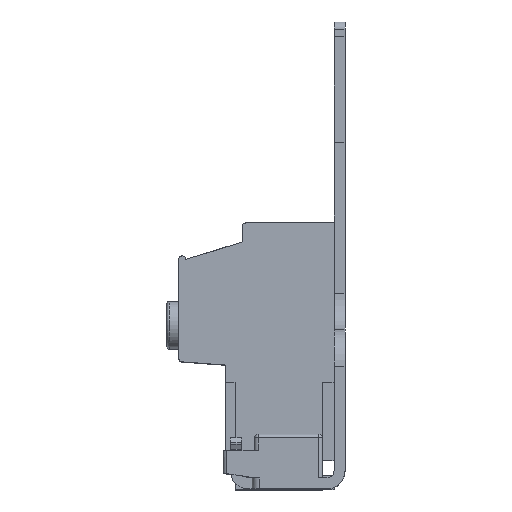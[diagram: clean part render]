
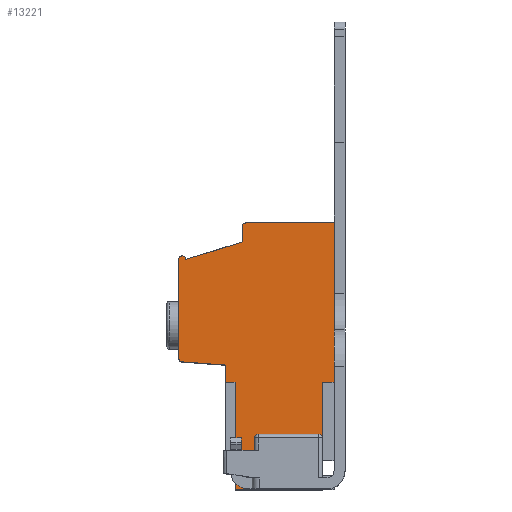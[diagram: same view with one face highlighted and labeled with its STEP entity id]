
A CAD part, top view. The second image highlights one B-rep face of the part: STEP entity #13221.
In plain terms, the highlighted planar face has unit normal (0, 0, 1).
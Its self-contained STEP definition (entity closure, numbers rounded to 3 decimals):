
#1215=DIRECTION('',(0.,1.,0.));
#1216=VECTOR('',#1215,7.15);
#1217=CARTESIAN_POINT('',(22.9,19.45,-14.231));
#1218=LINE('',#1217,#1216);
#1632=DIRECTION('',(-1.,0.,0.));
#1633=VECTOR('',#1632,9.3);
#1634=CARTESIAN_POINT('',(21.3,6.3,-14.231));
#1635=LINE('',#1634,#1633);
#1641=DIRECTION('',(0.,1.,0.));
#1642=VECTOR('',#1641,7.65);
#1643=CARTESIAN_POINT('',(21.3,11.8,-14.231));
#1644=LINE('',#1643,#1642);
#1649=DIRECTION('',(0.,1.,0.));
#1650=VECTOR('',#1649,1.6);
#1651=CARTESIAN_POINT('',(21.3,4.7,-14.231));
#1652=LINE('',#1651,#1650);
#1783=CARTESIAN_POINT('',(20.8,11.8,-14.231));
#1784=DIRECTION('',(0.,0.,1.));
#1785=DIRECTION('',(1.,0.,0.));
#1786=AXIS2_PLACEMENT_3D('',#1783,#1784,#1785);
#1788=CARTESIAN_POINT('',(12.5,11.8,-14.231));
#1789=DIRECTION('',(0.,0.,1.));
#1790=DIRECTION('',(0.,1.,0.));
#1791=AXIS2_PLACEMENT_3D('',#1788,#1789,#1790);
#1793=DIRECTION('',(0.,-1.,0.));
#1794=VECTOR('',#1793,5.5);
#1795=CARTESIAN_POINT('',(12.,11.8,-14.231));
#1796=LINE('',#1795,#1794);
#1797=DIRECTION('',(-0.997,0.073,0.));
#1798=VECTOR('',#1797,5.952);
#1799=CARTESIAN_POINT('',(8.,21.783,-14.231));
#1800=LINE('',#1799,#1798);
#1801=CARTESIAN_POINT('',(2.1,22.715,-14.231));
#1802=DIRECTION('',(0.,0.,-1.));
#1803=DIRECTION('',(-0.073,-0.997,0.));
#1804=AXIS2_PLACEMENT_3D('',#1801,#1802,#1803);
#1806=DIRECTION('',(0.,1.,0.));
#1807=VECTOR('',#1806,13.535);
#1808=CARTESIAN_POINT('',(1.6,22.715,-14.231));
#1809=LINE('',#1808,#1807);
#1810=CARTESIAN_POINT('',(2.1,36.25,-14.231));
#1811=DIRECTION('',(0.,0.,-1.));
#1812=DIRECTION('',(-1.,0.,0.));
#1813=AXIS2_PLACEMENT_3D('',#1810,#1811,#1812);
#1815=DIRECTION('',(0.955,0.298,0.));
#1816=VECTOR('',#1815,8.065);
#1817=CARTESIAN_POINT('',(2.6,36.25,-14.231));
#1818=LINE('',#1817,#1816);
#1819=CARTESIAN_POINT('',(10.8,40.75,-14.231));
#1820=DIRECTION('',(0.,0.,-1.));
#1821=DIRECTION('',(-1.,0.,0.));
#1822=AXIS2_PLACEMENT_3D('',#1819,#1820,#1821);
#1824=DIRECTION('',(1.,0.,0.));
#1825=VECTOR('',#1824,12.1);
#1826=CARTESIAN_POINT('',(10.8,41.25,-14.231));
#1827=LINE('',#1826,#1825);
#1828=DIRECTION('',(0.,-1.,0.));
#1829=VECTOR('',#1828,14.65);
#1830=CARTESIAN_POINT('',(22.9,41.25,-14.231));
#1831=LINE('',#1830,#1829);
#1836=DIRECTION('',(1.,0.,0.));
#1837=VECTOR('',#1836,1.6);
#1838=CARTESIAN_POINT('',(21.3,19.45,-14.231));
#1839=LINE('',#1838,#1837);
#1976=DIRECTION('',(1.,0.,0.));
#1977=VECTOR('',#1976,11.97);
#1978=CARTESIAN_POINT('',(9.33,4.7,-14.231));
#1979=LINE('',#1978,#1977);
#2100=DIRECTION('',(0.,-1.,0.));
#2101=VECTOR('',#2100,14.75);
#2102=CARTESIAN_POINT('',(9.33,19.45,-14.231));
#2103=LINE('',#2102,#2101);
#2128=DIRECTION('',(0.,-1.,0.));
#2129=VECTOR('',#2128,2.333);
#2130=CARTESIAN_POINT('',(8.,21.783,-14.231));
#2131=LINE('',#2130,#2129);
#2382=DIRECTION('',(1.,0.,0.));
#2383=VECTOR('',#2382,1.33);
#2384=CARTESIAN_POINT('',(8.,19.45,-14.231));
#2385=LINE('',#2384,#2383);
#3847=DIRECTION('',(1.,0.,0.));
#3848=VECTOR('',#3847,8.3);
#3849=CARTESIAN_POINT('',(12.5,12.3,-14.231));
#3850=LINE('',#3849,#3848);
#6258=DIRECTION('',(0.,-1.,0.));
#6259=VECTOR('',#6258,2.1);
#6260=CARTESIAN_POINT('',(10.3,40.75,-14.231));
#6261=LINE('',#6260,#6259);
#8754=CARTESIAN_POINT('',(22.9,19.45,-14.231));
#8756=VERTEX_POINT('',#8754);
#8759=CARTESIAN_POINT('',(21.3,19.45,-14.231));
#8760=VERTEX_POINT('',#8759);
#8787=CARTESIAN_POINT('',(22.9,26.6,-14.231));
#8788=VERTEX_POINT('',#8787);
#9003=CARTESIAN_POINT('',(21.3,6.3,-14.231));
#9004=VERTEX_POINT('',#9003);
#9005=CARTESIAN_POINT('',(12.,6.3,-14.231));
#9006=VERTEX_POINT('',#9005);
#9013=CARTESIAN_POINT('',(21.3,11.8,-14.231));
#9014=VERTEX_POINT('',#9013);
#9025=CARTESIAN_POINT('',(21.3,4.7,-14.231));
#9026=VERTEX_POINT('',#9025);
#9079=CARTESIAN_POINT('',(22.9,41.25,-14.231));
#9080=VERTEX_POINT('',#9079);
#9117=CARTESIAN_POINT('',(10.8,41.25,-14.231));
#9118=VERTEX_POINT('',#9117);
#9127=CARTESIAN_POINT('',(20.8,12.3,-14.231));
#9128=VERTEX_POINT('',#9127);
#9129=CARTESIAN_POINT('',(12.5,12.3,-14.231));
#9130=VERTEX_POINT('',#9129);
#9131=CARTESIAN_POINT('',(12.,11.8,-14.231));
#9132=VERTEX_POINT('',#9131);
#9133=CARTESIAN_POINT('',(9.33,4.7,-14.231));
#9134=VERTEX_POINT('',#9133);
#9135=CARTESIAN_POINT('',(9.33,19.45,-14.231));
#9136=VERTEX_POINT('',#9135);
#9137=CARTESIAN_POINT('',(8.,19.45,-14.231));
#9138=VERTEX_POINT('',#9137);
#9139=CARTESIAN_POINT('',(8.,21.783,-14.231));
#9140=VERTEX_POINT('',#9139);
#9141=CARTESIAN_POINT('',(2.064,22.216,-14.231));
#9142=VERTEX_POINT('',#9141);
#9143=CARTESIAN_POINT('',(1.6,22.715,-14.231));
#9144=VERTEX_POINT('',#9143);
#9145=CARTESIAN_POINT('',(1.6,36.25,-14.231));
#9146=VERTEX_POINT('',#9145);
#9147=CARTESIAN_POINT('',(2.6,36.25,-14.231));
#9148=VERTEX_POINT('',#9147);
#9149=CARTESIAN_POINT('',(10.3,38.65,-14.231));
#9150=VERTEX_POINT('',#9149);
#9151=CARTESIAN_POINT('',(10.3,40.75,-14.231));
#9152=VERTEX_POINT('',#9151);
#13178=CARTESIAN_POINT('',(12.25,22.975,-14.231));
#13179=DIRECTION('',(0.,0.,1.));
#13180=DIRECTION('',(1.,0.,0.));
#13181=AXIS2_PLACEMENT_3D('',#13178,#13179,#13180);
#13182=PLANE('',#13181);
#13183=ORIENTED_EDGE('',*,*,#12450,.F.);
#13185=ORIENTED_EDGE('',*,*,#13184,.F.);
#13186=ORIENTED_EDGE('',*,*,#12930,.F.);
#13188=ORIENTED_EDGE('',*,*,#13187,.T.);
#13190=ORIENTED_EDGE('',*,*,#13189,.F.);
#13192=ORIENTED_EDGE('',*,*,#13191,.T.);
#13194=ORIENTED_EDGE('',*,*,#13193,.T.);
#13195=ORIENTED_EDGE('',*,*,#12912,.F.);
#13196=ORIENTED_EDGE('',*,*,#12946,.F.);
#13198=ORIENTED_EDGE('',*,*,#13197,.F.);
#13200=ORIENTED_EDGE('',*,*,#13199,.F.);
#13202=ORIENTED_EDGE('',*,*,#13201,.F.);
#13204=ORIENTED_EDGE('',*,*,#13203,.F.);
#13206=ORIENTED_EDGE('',*,*,#13205,.T.);
#13208=ORIENTED_EDGE('',*,*,#13207,.T.);
#13209=ORIENTED_EDGE('',*,*,#11740,.T.);
#13210=ORIENTED_EDGE('',*,*,#11804,.T.);
#13212=ORIENTED_EDGE('',*,*,#13211,.T.);
#13214=ORIENTED_EDGE('',*,*,#13213,.F.);
#13216=ORIENTED_EDGE('',*,*,#13215,.T.);
#13217=ORIENTED_EDGE('',*,*,#13161,.T.);
#13218=ORIENTED_EDGE('',*,*,#13086,.T.);
#13219=EDGE_LOOP('',(#13183,#13185,#13186,#13188,#13190,#13192,#13194,#13195,
#13196,#13198,#13200,#13202,#13204,#13206,#13208,#13209,#13210,#13212,#13214,
#13216,#13217,#13218));
#13220=FACE_OUTER_BOUND('',#13219,.F.);
#13221=ADVANCED_FACE('',(#13220),#13182,.T.);
#1787=CIRCLE('',#1786,0.5);
#1792=CIRCLE('',#1791,0.5);
#1805=CIRCLE('',#1804,0.5);
#1814=CIRCLE('',#1813,0.5);
#1823=CIRCLE('',#1822,0.5);
#11740=EDGE_CURVE('',#9144,#9146,#1809,.T.);
#11804=EDGE_CURVE('',#9146,#9148,#1814,.T.);
#12450=EDGE_CURVE('',#8756,#8788,#1218,.T.);
#12912=EDGE_CURVE('',#9004,#9006,#1635,.T.);
#12930=EDGE_CURVE('',#9014,#8760,#1644,.T.);
#12946=EDGE_CURVE('',#9026,#9004,#1652,.T.);
#13086=EDGE_CURVE('',#9080,#8788,#1831,.T.);
#13161=EDGE_CURVE('',#9118,#9080,#1827,.T.);
#13184=EDGE_CURVE('',#8760,#8756,#1839,.T.);
#13187=EDGE_CURVE('',#9014,#9128,#1787,.T.);
#13189=EDGE_CURVE('',#9130,#9128,#3850,.T.);
#13191=EDGE_CURVE('',#9130,#9132,#1792,.T.);
#13193=EDGE_CURVE('',#9132,#9006,#1796,.T.);
#13197=EDGE_CURVE('',#9134,#9026,#1979,.T.);
#13199=EDGE_CURVE('',#9136,#9134,#2103,.T.);
#13201=EDGE_CURVE('',#9138,#9136,#2385,.T.);
#13203=EDGE_CURVE('',#9140,#9138,#2131,.T.);
#13205=EDGE_CURVE('',#9140,#9142,#1800,.T.);
#13207=EDGE_CURVE('',#9142,#9144,#1805,.T.);
#13211=EDGE_CURVE('',#9148,#9150,#1818,.T.);
#13213=EDGE_CURVE('',#9152,#9150,#6261,.T.);
#13215=EDGE_CURVE('',#9152,#9118,#1823,.T.);
